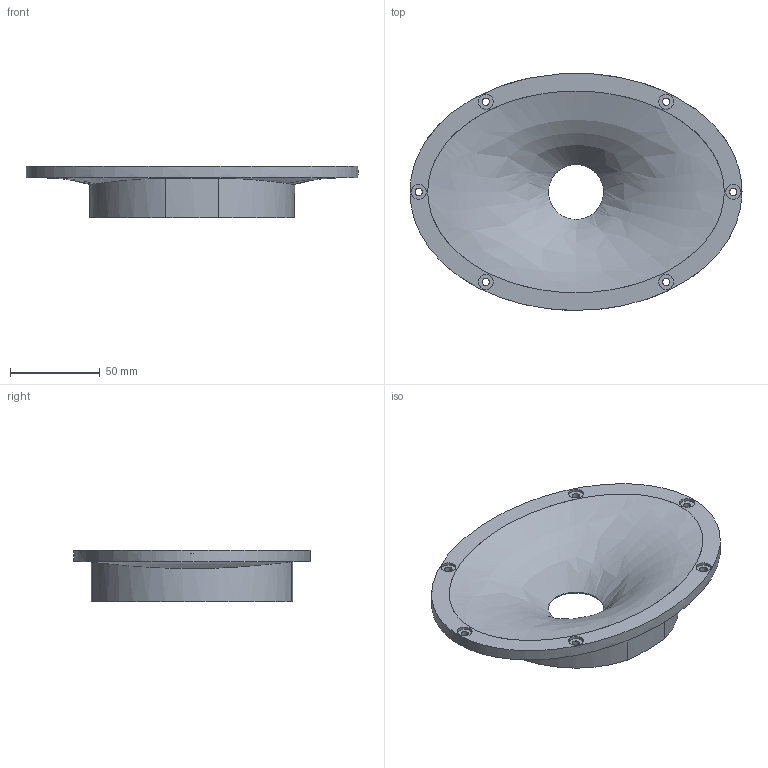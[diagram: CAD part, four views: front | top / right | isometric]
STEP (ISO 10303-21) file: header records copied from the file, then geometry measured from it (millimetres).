
FILE_DESCRIPTION(/* description */ (''),/* implementation_level */ '2;1');
FILE_NAME(/* name */ 'C:/Users/Admin/Desktop/templates/T25B/6/65 68vA.step',/* time_stamp */ '2022-06-07T19:25:32-06:00',/* author */ (''),/* organization */ (''),/* preprocessor_version */ 'ST-DEVELOPER v19',/* originating_system */ 'Autodesk Translation Framework v11.7.0.108',/* authorisation */ '');
FILE_SCHEMA (('AUTOMOTIVE_DESIGN { 1 0 10303 214 3 1 1 }'));
Length unit declared in the file: inch
Products named in the file (1): 6.5x1.1 68 A T25
Bounding box: 184.91 x 131.9 x 28.45 mm (x, y, z)
Volume: 241451.6 mm3; surface area: 50276.7 mm2
Topology: 1 solids, 1 shells, 311 faces, 760 edges, 480 vertices
Faces by surface type: bspline 193, plane 100, cylinder 18
Full cylindrical faces by diameter (mm): 3.302 x2, 4.064 x6, 8.382 x6, 67.31 x1, 68.834 x1
Entity records: 14169 total; most frequent: CARTESIAN_POINT 8101, ORIENTED_EDGE 1520, EDGE_CURVE 760, DIRECTION 668, VERTEX_POINT 480, B_SPLINE_CURVE_WITH_KNOTS 366, LINE 358, VECTOR 358
